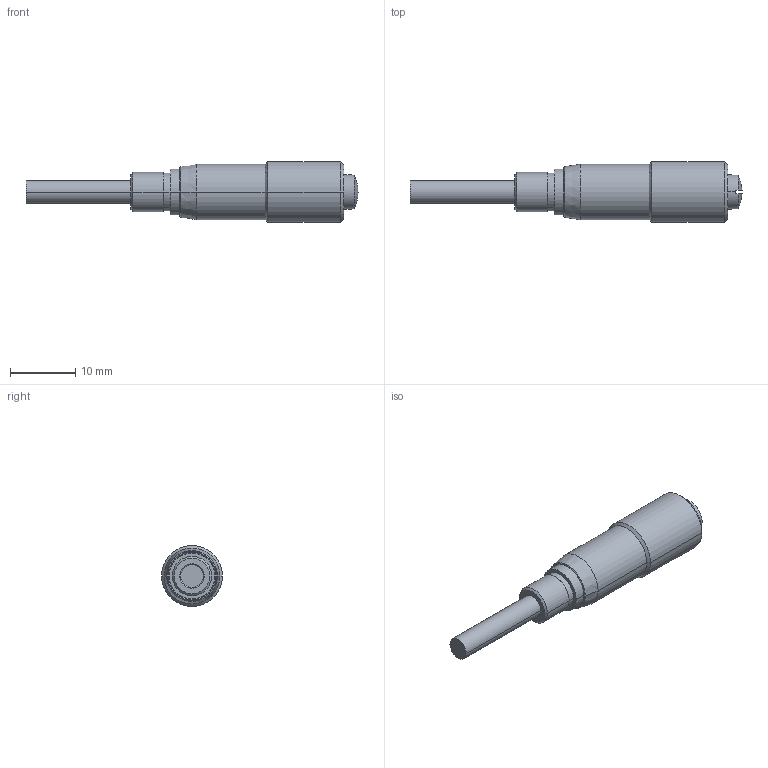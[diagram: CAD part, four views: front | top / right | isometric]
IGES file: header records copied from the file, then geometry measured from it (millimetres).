
Global section: file name: No Iges File Name specified; native system: AutoDesk Inventor R12.0; preprocessor: AutoDesk Inventor Iges Exporter R12.0; author: No Author specified; organization: No Organization specified; date: 20091116.105809; units: millimetre
Bounding box: 50.69 x 9.3 x 9.3 mm (x, y, z)
Volume: 1766.4 mm3; surface area: 3062.5 mm2
Topology: 2 solids, 3 shells, 84 faces, 170 edges, 101 vertices
Faces by surface type: cylinder 22, cone 20, plane 17, revolution 16, bspline 7, sphere 2
